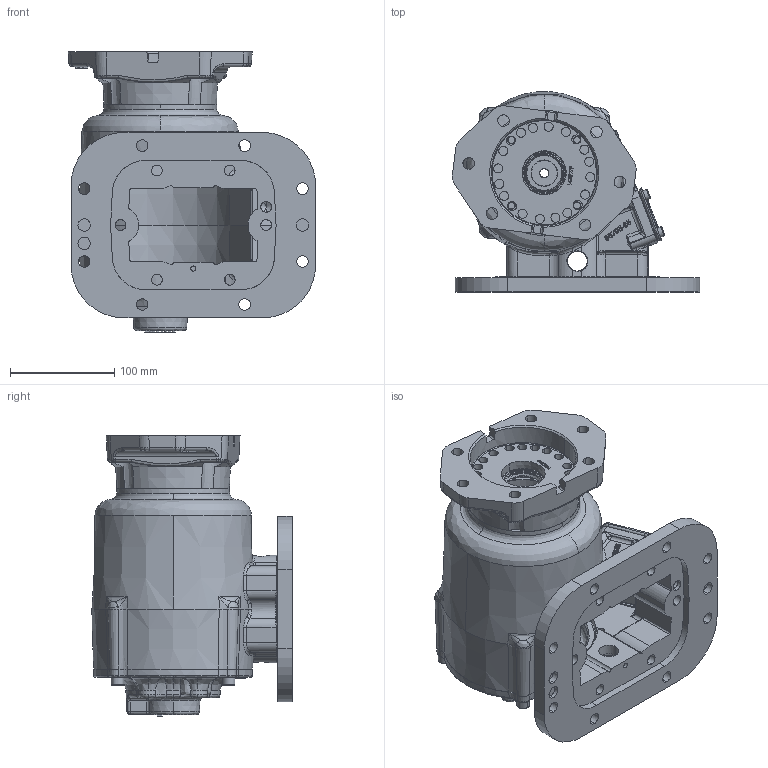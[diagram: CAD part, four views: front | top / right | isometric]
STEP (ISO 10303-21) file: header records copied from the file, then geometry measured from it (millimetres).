
FILE_DESCRIPTION (( 'STEP AP203' ), '1' );
FILE_NAME ('CS8S-XXXXX-E3KX.STEP', '2023-05-02T18:43:34', ( '' ), ( '' ), 'SwSTEP 2.0', 'SolidWorks 2021', '' );
FILE_SCHEMA (( 'CONFIG_CONTROL_DESIGN' ));
Length unit declared in the file: inch
Products named in the file (9): 19T35237; 01t37075a; 19T41118; 14TA3996; 11T65108; 15T36717; 14T37779; CS8S-XXXXX-E3KX; 16T41119
Assembly tree (14 placements, depth 3):
  CS8S-XXXXX-E3KX
    01t37075a
    15T36717
    16T41119
    19T41118  x4
    19T35237  x4
    14TA3996
      14T37779
      11T65108
Bounding box: 237.26 x 192.11 x 268.87 mm (x, y, z)
Volume: 1690531.8 mm3; surface area: 467038.9 mm2
Topology: 15 solids, 16 shells, 2493 faces, 6480 edges, 4084 vertices
Faces by surface type: bspline 978, plane 682, cylinder 538, cone 245, torus 46, sphere 4
Entity records: 165499 total; most frequent: CARTESIAN_POINT 113826, ORIENTED_EDGE 12256, DIRECTION 7467, EDGE_CURVE 6128, VERTEX_POINT 3898, EDGE_LOOP 2644, AXIS2_PLACEMENT_3D 2518, B_SPLINE_CURVE_WITH_KNOTS 2450
